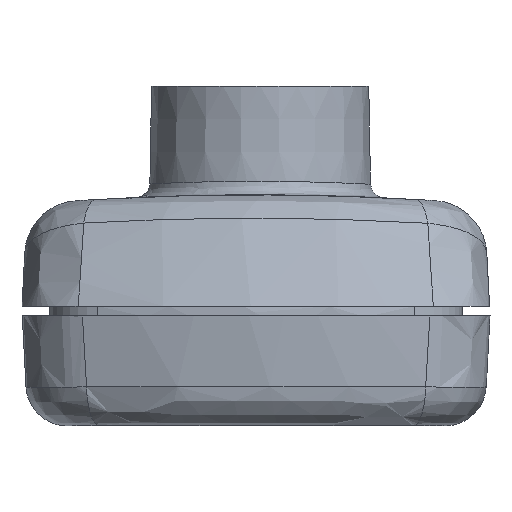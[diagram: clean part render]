
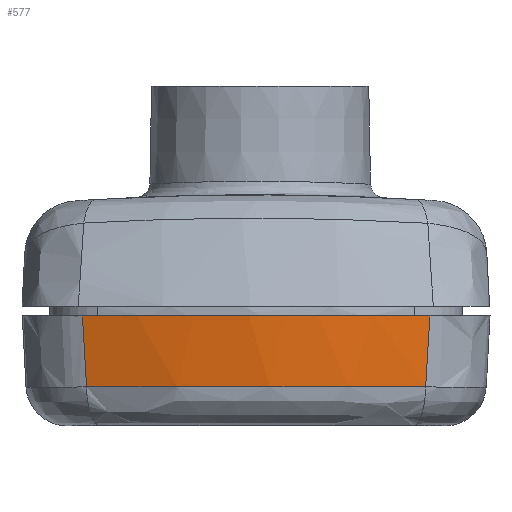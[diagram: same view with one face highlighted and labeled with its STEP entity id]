
A CAD part, left-side view. The second image highlights one B-rep face of the part: STEP entity #577.
In plain terms, the highlighted free-form (B-spline) face has degree [1, 3] with [3, 4] control points.
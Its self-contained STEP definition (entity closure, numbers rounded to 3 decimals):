
#133=B_SPLINE_SURFACE_WITH_KNOTS('',1,3,((#6457,#6458,#6459,#6460),(#6461,
#6462,#6463,#6464),(#6465,#6466,#6467,#6468)),.UNSPECIFIED.,.F.,.F.,.F.,
(2,1,2),(4,4),(0.,0.028,1.),(0.,1.),.UNSPECIFIED.);
#289=B_SPLINE_CURVE_WITH_KNOTS('',3,(#6315,#6316,#6317,#6318),
 .UNSPECIFIED.,.F.,.F.,(4,4),(0.,1.),.UNSPECIFIED.);
#290=B_SPLINE_CURVE_WITH_KNOTS('',3,(#6320,#6321,#6322,#6323),
 .UNSPECIFIED.,.F.,.F.,(4,4),(0.,1.),.UNSPECIFIED.);
#291=B_SPLINE_CURVE_WITH_KNOTS('',3,(#6325,#6326,#6327,#6328),
 .UNSPECIFIED.,.F.,.F.,(4,4),(0.,1.),.UNSPECIFIED.);
#301=B_SPLINE_CURVE_WITH_KNOTS('',3,(#6430,#6431,#6432,#6433),
 .UNSPECIFIED.,.F.,.F.,(4,4),(0.,1.),.UNSPECIFIED.);
#302=B_SPLINE_CURVE_WITH_KNOTS('',3,(#6436,#6437,#6438,#6439),
 .UNSPECIFIED.,.F.,.F.,(4,4),(0.,1.),.UNSPECIFIED.);
#303=B_SPLINE_CURVE_WITH_KNOTS('',3,(#6441,#6442,#6443,#6444,#6445,#6446,
#6447),.UNSPECIFIED.,.F.,.F.,(4,3,4),(0.,0.703,1.),
 .UNSPECIFIED.);
#304=B_SPLINE_CURVE_WITH_KNOTS('',3,(#6449,#6450,#6451,#6452),
 .UNSPECIFIED.,.F.,.F.,(4,4),(0.,1.),.UNSPECIFIED.);
#305=B_SPLINE_CURVE_WITH_KNOTS('',3,(#6453,#6454,#6455,#6456),
 .UNSPECIFIED.,.F.,.F.,(4,4),(0.,1.),.UNSPECIFIED.);
#577=ADVANCED_FACE('',(#799),#133,.F.);
#799=FACE_OUTER_BOUND('',#987,.T.);
#987=EDGE_LOOP('',(#1576,#1577,#1578,#1579,#1580,#1581,#1582,#1583));
#1576=ORIENTED_EDGE('',*,*,#2487,.T.);
#1577=ORIENTED_EDGE('',*,*,#2488,.T.);
#1578=ORIENTED_EDGE('',*,*,#2489,.T.);
#1579=ORIENTED_EDGE('',*,*,#2490,.T.);
#1580=ORIENTED_EDGE('',*,*,#2453,.F.);
#1581=ORIENTED_EDGE('',*,*,#2452,.F.);
#1582=ORIENTED_EDGE('',*,*,#2451,.F.);
#1583=ORIENTED_EDGE('',*,*,#2491,.T.);
#2097=VERTEX_POINT('',#6314);
#2098=VERTEX_POINT('',#6319);
#2099=VERTEX_POINT('',#6324);
#2100=VERTEX_POINT('',#6329);
#2128=VERTEX_POINT('',#6434);
#2129=VERTEX_POINT('',#6435);
#2130=VERTEX_POINT('',#6440);
#2131=VERTEX_POINT('',#6448);
#2451=EDGE_CURVE('',#2097,#2098,#289,.T.);
#2452=EDGE_CURVE('',#2098,#2099,#290,.T.);
#2453=EDGE_CURVE('',#2099,#2100,#291,.T.);
#2487=EDGE_CURVE('',#2128,#2129,#301,.T.);
#2488=EDGE_CURVE('',#2129,#2130,#302,.T.);
#2489=EDGE_CURVE('',#2130,#2131,#303,.T.);
#2490=EDGE_CURVE('',#2131,#2100,#304,.T.);
#2491=EDGE_CURVE('',#2097,#2128,#305,.T.);
#6314=CARTESIAN_POINT('',(-26.61,-26.35,0.));
#6315=CARTESIAN_POINT('',(-26.61,-26.35,0.));
#6316=CARTESIAN_POINT('',(-27.051,-25.026,0.));
#6317=CARTESIAN_POINT('',(-27.35,-23.66,0.));
#6318=CARTESIAN_POINT('',(-27.506,-22.278,0.));
#6319=CARTESIAN_POINT('',(-27.506,-22.278,0.));
#6320=CARTESIAN_POINT('',(-27.506,-22.278,0.));
#6321=CARTESIAN_POINT('',(-27.677,-20.767,0.));
#6322=CARTESIAN_POINT('',(-27.678,-19.238,0.));
#6323=CARTESIAN_POINT('',(-27.507,-17.726,0.));
#6324=CARTESIAN_POINT('',(-27.507,-17.726,0.));
#6325=CARTESIAN_POINT('',(-27.507,-17.726,0.));
#6326=CARTESIAN_POINT('',(-27.351,-16.344,0.));
#6327=CARTESIAN_POINT('',(-27.053,-14.976,0.));
#6328=CARTESIAN_POINT('',(-26.612,-13.65,0.));
#6329=CARTESIAN_POINT('',(-26.612,-13.65,0.));
#6430=CARTESIAN_POINT('',(-26.608,-26.347,0.06));
#6431=CARTESIAN_POINT('',(-26.578,-26.297,0.904));
#6432=CARTESIAN_POINT('',(-26.548,-26.247,1.748));
#6433=CARTESIAN_POINT('',(-26.518,-26.196,2.593));
#6434=CARTESIAN_POINT('',(-26.608,-26.347,0.06));
#6435=CARTESIAN_POINT('',(-26.518,-26.196,2.593));
#6436=CARTESIAN_POINT('',(-26.518,-26.196,2.593));
#6437=CARTESIAN_POINT('',(-27.829,-22.18,2.593));
#6438=CARTESIAN_POINT('',(-27.829,-17.82,2.593));
#6439=CARTESIAN_POINT('',(-26.519,-13.805,2.593));
#6440=CARTESIAN_POINT('',(-26.519,-13.805,2.593));
#6441=CARTESIAN_POINT('',(-26.519,-13.805,2.593));
#6442=CARTESIAN_POINT('',(-26.541,-13.769,1.999));
#6443=CARTESIAN_POINT('',(-26.562,-13.734,1.406));
#6444=CARTESIAN_POINT('',(-26.583,-13.699,0.813));
#6445=CARTESIAN_POINT('',(-26.592,-13.684,0.562));
#6446=CARTESIAN_POINT('',(-26.601,-13.669,0.311));
#6447=CARTESIAN_POINT('',(-26.61,-13.654,0.06));
#6448=CARTESIAN_POINT('',(-26.61,-13.654,0.06));
#6449=CARTESIAN_POINT('',(-26.61,-13.654,0.06));
#6450=CARTESIAN_POINT('',(-26.61,-13.653,0.04));
#6451=CARTESIAN_POINT('',(-26.611,-13.651,0.02));
#6452=CARTESIAN_POINT('',(-26.612,-13.65,0.));
#6453=CARTESIAN_POINT('',(-26.61,-26.35,0.));
#6454=CARTESIAN_POINT('',(-26.609,-26.349,0.02));
#6455=CARTESIAN_POINT('',(-26.609,-26.348,0.04));
#6456=CARTESIAN_POINT('',(-26.608,-26.347,0.06));
#6457=CARTESIAN_POINT('',(-25.745,-11.447,-0.322));
#6458=CARTESIAN_POINT('',(-28.287,-16.81,-0.322));
#6459=CARTESIAN_POINT('',(-28.287,-23.19,-0.322));
#6460=CARTESIAN_POINT('',(-25.744,-28.553,-0.322));
#6461=CARTESIAN_POINT('',(-25.732,-11.454,-0.041));
#6462=CARTESIAN_POINT('',(-28.272,-16.812,-0.041));
#6463=CARTESIAN_POINT('',(-28.272,-23.188,-0.041));
#6464=CARTESIAN_POINT('',(-25.73,-28.546,-0.041));
#6465=CARTESIAN_POINT('',(-25.27,-11.673,9.708));
#6466=CARTESIAN_POINT('',(-27.744,-16.89,9.708));
#6467=CARTESIAN_POINT('',(-27.744,-23.109,9.708));
#6468=CARTESIAN_POINT('',(-25.269,-28.327,9.708));
